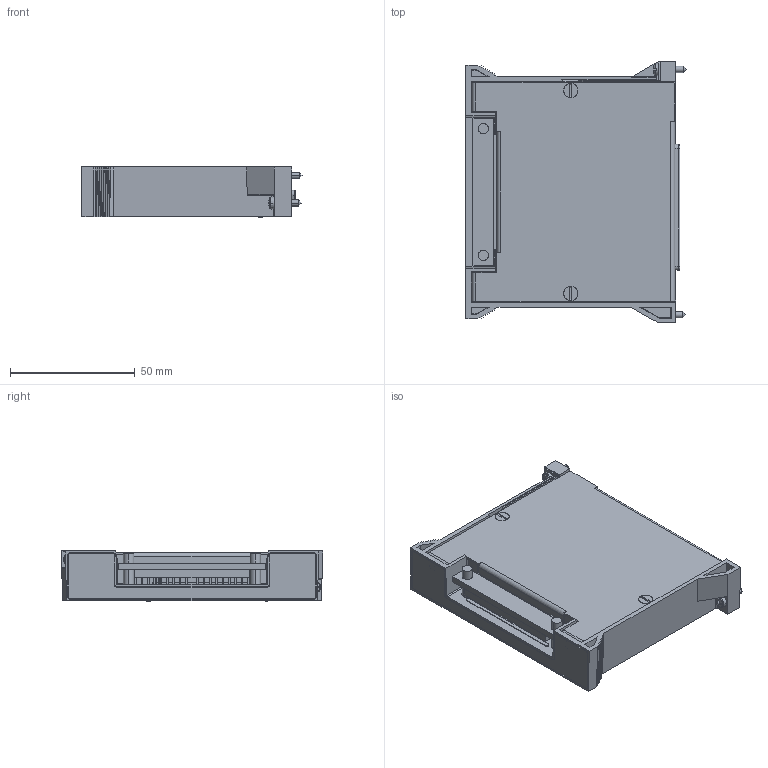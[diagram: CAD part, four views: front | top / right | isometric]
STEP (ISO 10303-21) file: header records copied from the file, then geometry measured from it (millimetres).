
FILE_DESCRIPTION((''),'2;1');
FILE_NAME('CU_TB-2630','2011-08-10T',('jjorden'),(''),'PRO/ENGINEER BY PARAMETRIC TECHNOLOGY CORPORATION, 2010230','PRO/ENGINEER BY PARAMETRIC TECHNOLOGY CORPORATION, 2010230','');
FILE_SCHEMA(('CONFIG_CONTROL_DESIGN'));
Products named in the file (1): CU_TB-2630
Bounding box: 88.3 x 104.78 x 20.08 mm (x, y, z)
Volume: 54731.4 mm3; surface area: 69538.5 mm2
Topology: 2 solids, 4 shells, 3463 faces, 8988 edges, 5840 vertices
Faces by surface type: plane 2674, cylinder 616, bspline 84, cone 50, sphere 27, torus 12
Entity records: 107763 total; most frequent: CARTESIAN_POINT 21806, ORIENTED_EDGE 17848, DIRECTION 16846, EDGE_CURVE 8924, VECTOR 7302, LINE 7302, VERTEX_POINT 5897, AXIS2_PLACEMENT_3D 4772
